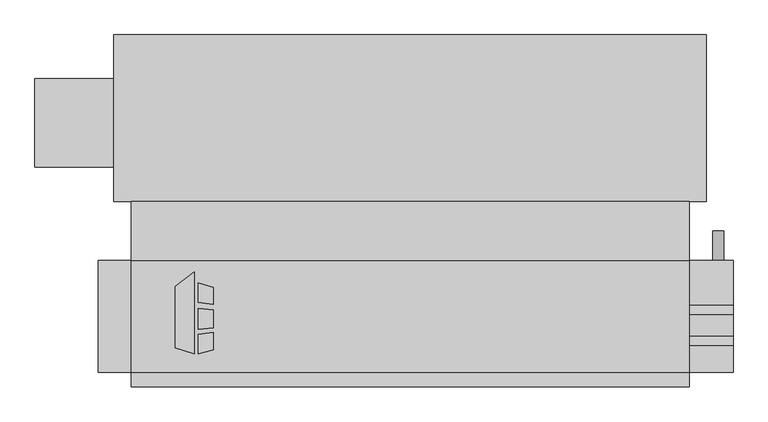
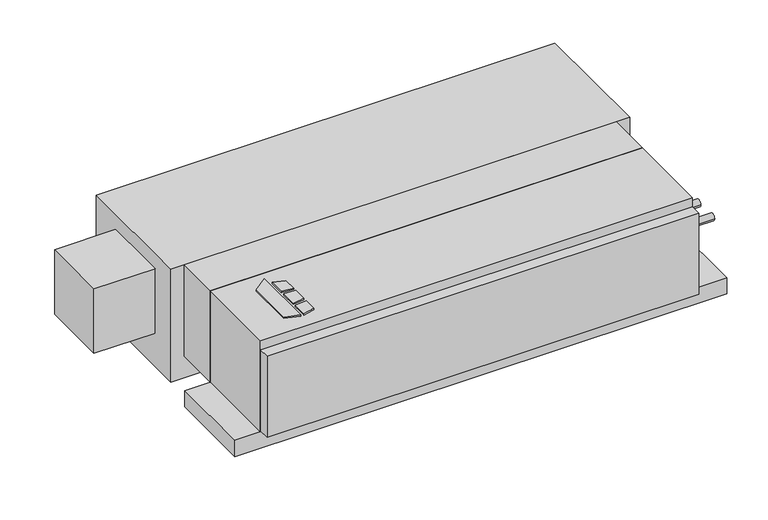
"""IFC4 building model written with IfcOpenShell, lengths in millimetres: proxy geometry, Concealed_Horizontal_Fan_Coil_Unit_With_Plenum_-_CPY_-_IEC_-_2-Pipe_Cool-EHeat_RH_2022 : Size 08 - 277v/60Hz/1Ph - 4 Row 6.0kW."""

from ifc_helpers import new_model, si_unit, point, frame, frame_2d, origin, origin_with_axes, place, context, project, spatial, polyline, circle_curve, trimmed, segment, composite_curve, outline, extrude, source, transform, mapped, element, save


def mechanical_equipment_0507619c(model_context):
    return source(origin(), model_context, "Body", "SweptSolid", [
        extrude(outline(polyline([(-254.0, -186.6953476), (-221.4417033, -161.2580184), (-221.4417033, -303.2125), (-254.0, -292.9929201), (-254.0, -186.6953476)])), origin_with_axes(), (0.0, 0.0, 1.0), 3.175),
        extrude(outline(polyline([(-214.6833703, -214.567352), (-214.6833703, -180.0874379), (-188.6019761, -188.2740115), (-188.6019761, -217.7697446), (-214.6833703, -214.567352)])), origin_with_axes(), (0.0, 0.0, 1.0), 3.175),
        extrude(outline(polyline([(-188.6019761, -296.2240115), (-214.6833703, -303.2125), (-214.6833703, -269.9911996), (-188.6019761, -266.4493564), (-188.6019761, -296.2240115)])), origin_with_axes(), (0.0, 0.0, 1.0), 3.175),
        extrude(outline(polyline([(-188.6019761, -226.8513277), (-188.6019761, -258.101483), (-214.6833703, -260.842748), (-214.6833703, -224.9850378), (-188.6019761, -226.8513277)])), origin_with_axes(), (0.0, 0.0, 1.0), 3.175),
        extrude(outline(composite_curve([segment(trimmed(circle_curve(frame_2d((-280.9875, -104.775)), 7.9375), [point((-273.05, -104.775))], [point((-288.925, -104.775))], False, "CARTESIAN"), True, "CONTINUOUS"), segment(trimmed(circle_curve(frame_2d((-280.9875, -104.775)), 7.9375), [point((-288.925, -104.775))], [point((-273.05, -104.775))], False, "CARTESIAN"), True, "CONTINUOUS")], self_intersect=False)), frame((635.0, 0.0, 0.0), z_axis=(1.0, 0.0, 0.0), x_axis=(0.0, 1.0, 0.0)), (0.0, 0.0, 1.0), 76.2),
        extrude(outline(composite_curve([segment(trimmed(circle_curve(frame_2d((-227.0125, -104.775)), 7.9375), [point((-219.075, -104.775))], [point((-234.95, -104.775))], False, "CARTESIAN"), True, "CONTINUOUS"), segment(trimmed(circle_curve(frame_2d((-227.0125, -104.775)), 7.9375), [point((-234.95, -104.775))], [point((-219.075, -104.775))], False, "CARTESIAN"), True, "CONTINUOUS")], self_intersect=False)), frame((635.0, 0.0, 0.0), z_axis=(1.0, 0.0, 0.0), x_axis=(0.0, 1.0, 0.0)), (0.0, 0.0, 1.0), 76.2),
        extrude(outline(composite_curve([segment(trimmed(circle_curve(frame_2d((-241.3, 685.8)), 9.525), [point((-241.3, 676.275))], [point((-241.3, 695.325))], False, "CARTESIAN"), True, "CONTINUOUS"), segment(trimmed(circle_curve(frame_2d((-241.3, 685.8)), 9.525), [point((-241.3, 695.325))], [point((-241.3, 676.275))], False, "CARTESIAN"), True, "CONTINUOUS")], self_intersect=False)), frame((0.0, -141.2875, 0.0), z_axis=(0.0, 1.0, 0.0), x_axis=(0.0, 0.0, 1.0)), (0.0, 0.0, 1.0), 50.8),
        extrude(outline(polyline([(-330.2, -39.6875), (635.0, -39.6875), (635.0, -141.2875), (-330.2, -141.2875), (-330.2, -39.6875)])), frame((0.0, 0.0, -215.9), z_axis=(0.0, 0.0, 1.0), x_axis=(1.0, 0.0, 0.0)), (0.0, 0.0, 1.0), 215.9),
        extrude(outline(polyline([(635.0, -360.3625), (-330.2, -360.3625), (-330.2, -334.9625), (635.0, -334.9625), (635.0, -360.3625)])), frame((0.0, 0.0, -212.725), z_axis=(0.0, 0.0, 1.0), x_axis=(1.0, 0.0, 0.0)), (0.0, 0.0, 1.0), 190.5),
        extrude(outline(polyline([(-496.8875, 20.6375), (-496.8875, 173.0375), (-360.3625, 173.0375), (-360.3625, 20.6375), (-496.8875, 20.6375)])), frame((0.0, 0.0, -187.325), z_axis=(0.0, 0.0, 1.0), x_axis=(1.0, 0.0, 0.0)), (0.0, 0.0, 1.0), 152.4),
        extrude(outline(polyline([(-360.3625, 249.2375), (665.1625, 249.2375), (665.1625, -39.6875), (-360.3625, -39.6875), (-360.3625, 249.2375)])), frame((0.0, 0.0, -266.7), z_axis=(0.0, 0.0, 1.0), x_axis=(1.0, 0.0, 0.0)), (0.0, 0.0, 1.0), 266.7),
        extrude(outline(polyline([(635.0, -141.2875), (635.0, -334.9625), (-330.2, -334.9625), (-330.2, -141.2875), (635.0, -141.2875)])), frame((0.0, 0.0, -215.9), z_axis=(0.0, 0.0, 1.0), x_axis=(1.0, 0.0, 0.0)), (0.0, 0.0, 1.0), 215.9),
        extrude(outline(polyline([(711.2, -141.2875), (711.2, -334.9625), (-387.35, -334.9625), (-387.35, -141.2875), (711.2, -141.2875)])), frame((0.0, 0.0, -254.0), z_axis=(0.0, 0.0, 1.0), x_axis=(1.0, 0.0, 0.0)), (0.0, 0.0, 1.0), 38.1),
    ])


if __name__ == "__main__":
    model = new_model("IFC4")
    model_context = context("Model", 3, world=origin())
    ifc_project = project(units=[si_unit("LENGTHUNIT", "METRE", prefix="MILLI")], contexts=[model_context])
    site = spatial("IfcSite", under=ifc_project)
    building = spatial("IfcBuilding", under=site)
    placement = place(None, origin())
    mechanical_equipment_shape = mechanical_equipment_0507619c(model_context)
    element("IfcBuildingElementProxy", 1, Name="Concealed_Horizontal_Fan_Coil_Unit_With_Plenum_-_CPY_-_IEC_-_2-Pipe_Cool-EHeat_RH_2022 : Size 08 - 277v/60Hz/1Ph - 4 Row 6.0kW", ObjectType="Concealed_Horizontal_Fan_Coil_Unit_With_Plenum_-_CPY_-_IEC_-_2-Pipe_Cool-EHeat_RH_2022 : Size 08 - 277v/60Hz/1Ph - 4 Row 6.0kW", at=placement, inside=building, context=model_context, shape_type="MappedRepresentation", body=[
        mapped(mechanical_equipment_shape, transform((0.0, 0.0, 0.0), x_axis=(1.0, 0.0, 0.0), y_axis=(0.0, 1.0, 0.0), z_axis=(0.0, 0.0, 1.0))),
    ])
    save(model, "model.ifc")
